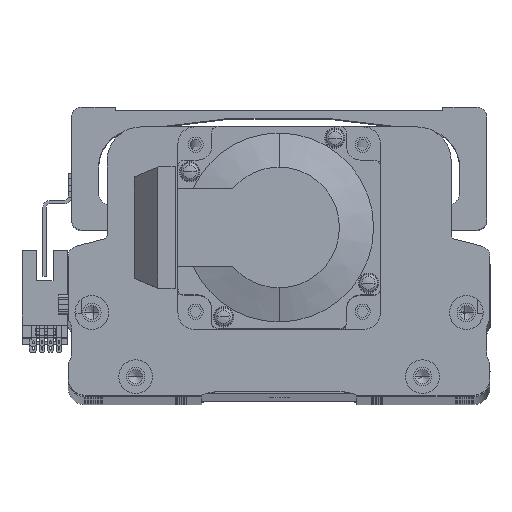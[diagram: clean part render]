
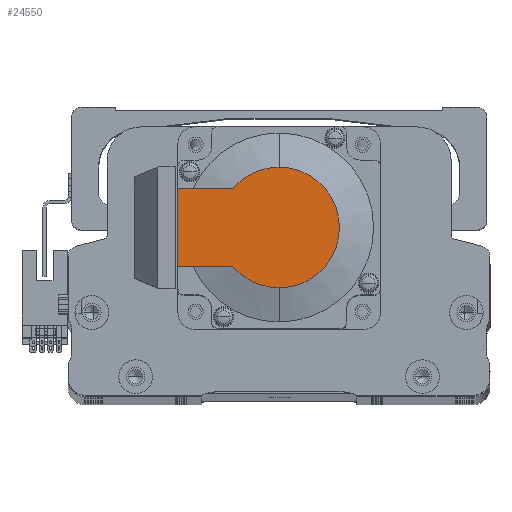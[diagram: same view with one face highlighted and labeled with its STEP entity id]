
A CAD part, top view. The second image highlights one B-rep face of the part: STEP entity #24550.
In plain terms, the highlighted planar face has unit normal (0, 0, 1) as drawn and (-1, 0, 0) by its records, which use the part's own axes.
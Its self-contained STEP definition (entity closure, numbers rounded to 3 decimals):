
#827 = LINE ( 'NONE', #40662, #46308 ) ;
#1605 = VECTOR ( 'NONE', #28716, 1000. ) ;
#3985 = PLANE ( 'NONE',  #33776 ) ;
#4019 = FACE_OUTER_BOUND ( 'NONE', #10548, .T. ) ;
#4174 = DIRECTION ( 'NONE',  ( 0., 0., 1. ) ) ;
#6437 = ORIENTED_EDGE ( 'NONE', *, *, #53431, .T. ) ;
#7736 = CARTESIAN_POINT ( 'NONE',  ( -118.5, 0., 0. ) ) ;
#8822 = VERTEX_POINT ( 'NONE', #30941 ) ;
#10548 = EDGE_LOOP ( 'NONE', ( #47100, #6437, #18858, #49551, #23528, #34093 ) ) ;
#12116 = DIRECTION ( 'NONE',  ( 0., 0., -1. ) ) ;
#13259 = VERTEX_POINT ( 'NONE', #18606 ) ;
#13299 = LINE ( 'NONE', #24296, #1605 ) ;
#13906 = DIRECTION ( 'NONE',  ( -1., 0., 0. ) ) ;
#14514 = CIRCLE ( 'NONE', #26375, 17.881 ) ;
#15522 = CARTESIAN_POINT ( 'NONE',  ( -118.5, 13.735, -11.45 ) ) ;
#16996 = EDGE_CURVE ( 'NONE', #13259, #52757, #827, .T. ) ;
#17850 = EDGE_CURVE ( 'NONE', #8822, #13259, #46841, .T. ) ;
#18231 = AXIS2_PLACEMENT_3D ( 'NONE', #7736, #38503, #12116 ) ;
#18606 = CARTESIAN_POINT ( 'NONE',  ( -118.5, 30., 11.45 ) ) ;
#18858 = ORIENTED_EDGE ( 'NONE', *, *, #47901, .T. ) ;
#19674 = CARTESIAN_POINT ( 'NONE',  ( -118.5, 0., 0. ) ) ;
#21234 = VERTEX_POINT ( 'NONE', #15522 ) ;
#23427 = VECTOR ( 'NONE', #24937, 1000. ) ;
#23528 = ORIENTED_EDGE ( 'NONE', *, *, #16996, .F. ) ;
#24120 = DIRECTION ( 'NONE',  ( 0., 0., -1. ) ) ;
#24296 = CARTESIAN_POINT ( 'NONE',  ( -118.5, -8.941, -11.45 ) ) ;
#24550 = ADVANCED_FACE ( 'NONE', ( #4019 ), #3985, .T. ) ;
#24937 = DIRECTION ( 'NONE',  ( 0., 0., 1. ) ) ;
#25247 = VERTEX_POINT ( 'NONE', #45533 ) ;
#26375 = AXIS2_PLACEMENT_3D ( 'NONE', #40323, #13906, #44790 ) ;
#28716 = DIRECTION ( 'NONE',  ( 0., -1., 0. ) ) ;
#30515 = DIRECTION ( 'NONE',  ( -1., 0., 0. ) ) ;
#30941 = CARTESIAN_POINT ( 'NONE',  ( -118.5, 30., -11.45 ) ) ;
#31232 = CARTESIAN_POINT ( 'NONE',  ( -118.5, 0., 17.881 ) ) ;
#32658 = AXIS2_PLACEMENT_3D ( 'NONE', #19674, #50493, #24120 ) ;
#32791 = CARTESIAN_POINT ( 'NONE',  ( -118.5, 13.735, 11.45 ) ) ;
#33776 = AXIS2_PLACEMENT_3D ( 'NONE', #56912, #30515, #4174 ) ;
#34068 = EDGE_CURVE ( 'NONE', #8822, #21234, #13299, .T. ) ;
#34093 = ORIENTED_EDGE ( 'NONE', *, *, #17850, .F. ) ;
#36369 = DIRECTION ( 'NONE',  ( 0., -1., 0. ) ) ;
#38029 = CARTESIAN_POINT ( 'NONE',  ( -118.5, 30., 25. ) ) ;
#38503 = DIRECTION ( 'NONE',  ( -1., 0., 0. ) ) ;
#39378 = CIRCLE ( 'NONE', #18231, 17.881 ) ;
#40323 = CARTESIAN_POINT ( 'NONE',  ( -118.5, 0., 0. ) ) ;
#40662 = CARTESIAN_POINT ( 'NONE',  ( -118.5, 0., 11.45 ) ) ;
#42700 = EDGE_CURVE ( 'NONE', #53389, #52757, #39378, .T. ) ;
#44790 = DIRECTION ( 'NONE',  ( 0., 0., -1. ) ) ;
#45533 = CARTESIAN_POINT ( 'NONE',  ( -118.5, 0., -17.881 ) ) ;
#46308 = VECTOR ( 'NONE', #36369, 1000. ) ;
#46841 = LINE ( 'NONE', #38029, #23427 ) ;
#47100 = ORIENTED_EDGE ( 'NONE', *, *, #34068, .T. ) ;
#47901 = EDGE_CURVE ( 'NONE', #25247, #53389, #48978, .T. ) ;
#48978 = CIRCLE ( 'NONE', #32658, 17.881 ) ;
#49551 = ORIENTED_EDGE ( 'NONE', *, *, #42700, .T. ) ;
#50493 = DIRECTION ( 'NONE',  ( -1., 0., 0. ) ) ;
#52757 = VERTEX_POINT ( 'NONE', #32791 ) ;
#53389 = VERTEX_POINT ( 'NONE', #31232 ) ;
#53431 = EDGE_CURVE ( 'NONE', #21234, #25247, #14514, .T. ) ;
#56912 = CARTESIAN_POINT ( 'NONE',  ( -118.5, -8.941, 0. ) ) ;
